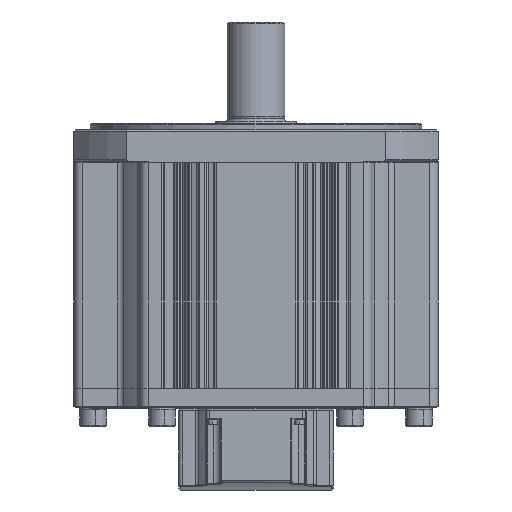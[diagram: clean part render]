
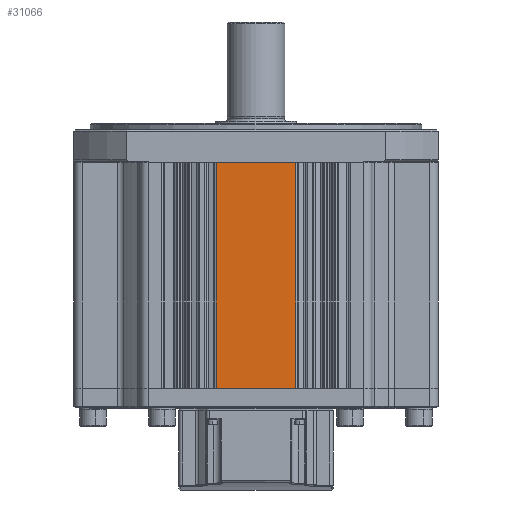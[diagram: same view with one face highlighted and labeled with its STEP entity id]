
A CAD part, front view. The second image highlights one B-rep face of the part: STEP entity #31066.
In plain terms, the highlighted planar face has unit normal (0, -1, 0).
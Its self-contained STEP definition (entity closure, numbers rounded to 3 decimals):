
#21059 = ORIENTED_EDGE ( 'NONE', *, *, #104988, .F. ) ;
#21104 = ORIENTED_EDGE ( 'NONE', *, *, #104981, .F. ) ;
#21166 = ORIENTED_EDGE ( 'NONE', *, *, #105039, .T. ) ;
#21169 = ORIENTED_EDGE ( 'NONE', *, *, #104979, .T. ) ;
#31066 = ADVANCED_FACE ( 'NONE', ( #68971 ), #68996, .F. ) ;
#62681 = EDGE_LOOP ( 'NONE', ( #21169, #21104, #21059, #21166 ) ) ;
#68971 = FACE_OUTER_BOUND ( 'NONE', #62681, .T. ) ;
#68987 = CARTESIAN_POINT ( 'NONE',  ( 6.427, -110., 0. ) ) ;
#68996 = PLANE ( 'NONE',  #69549 ) ;
#69002 = DIRECTION ( 'NONE',  ( -1., 0., 0. ) ) ;
#69004 = DIRECTION ( 'NONE',  ( 0., 1., 0. ) ) ;
#69549 = AXIS2_PLACEMENT_3D ( 'NONE', #68987, #69004, #69002 ) ;
#83161 = CARTESIAN_POINT ( 'NONE',  ( 24., -110., 0. ) ) ;
#83226 = CARTESIAN_POINT ( 'NONE',  ( -24., -110., 0. ) ) ;
#83273 = CARTESIAN_POINT ( 'NONE',  ( 24., -110., -136. ) ) ;
#83326 = CARTESIAN_POINT ( 'NONE',  ( -24., -110., -136. ) ) ;
#85006 = VERTEX_POINT ( 'NONE', #83161 ) ;
#85029 = VERTEX_POINT ( 'NONE', #83226 ) ;
#85055 = VERTEX_POINT ( 'NONE', #83326 ) ;
#85113 = VERTEX_POINT ( 'NONE', #83273 ) ;
#98886 = LINE ( 'NONE', #98988, #100221 ) ;
#98897 = LINE ( 'NONE', #99013, #100252 ) ;
#98948 = LINE ( 'NONE', #99020, #100259 ) ;
#98956 = DIRECTION ( 'NONE',  ( 1., 0., 0. ) ) ;
#98988 = CARTESIAN_POINT ( 'NONE',  ( 24., -110., 0. ) ) ;
#98995 = DIRECTION ( 'NONE',  ( 0., 0., -1. ) ) ;
#99004 = DIRECTION ( 'NONE',  ( 1., 0., 0. ) ) ;
#99013 = CARTESIAN_POINT ( 'NONE',  ( 6.427, -110., -136. ) ) ;
#99020 = CARTESIAN_POINT ( 'NONE',  ( 6.427, -110., 0. ) ) ;
#99288 = CARTESIAN_POINT ( 'NONE',  ( -24., -110., 0. ) ) ;
#99317 = DIRECTION ( 'NONE',  ( 0., 0., -1. ) ) ;
#99361 = LINE ( 'NONE', #99288, #100318 ) ;
#100221 = VECTOR ( 'NONE', #98995, 1000. ) ;
#100252 = VECTOR ( 'NONE', #99004, 1000. ) ;
#100259 = VECTOR ( 'NONE', #98956, 1000. ) ;
#100318 = VECTOR ( 'NONE', #99317, 1000. ) ;
#104979 = EDGE_CURVE ( 'NONE', #85055, #85113, #98897, .T. ) ;
#104981 = EDGE_CURVE ( 'NONE', #85006, #85113, #98886, .T. ) ;
#104988 = EDGE_CURVE ( 'NONE', #85029, #85006, #98948, .T. ) ;
#105039 = EDGE_CURVE ( 'NONE', #85029, #85055, #99361, .T. ) ;
